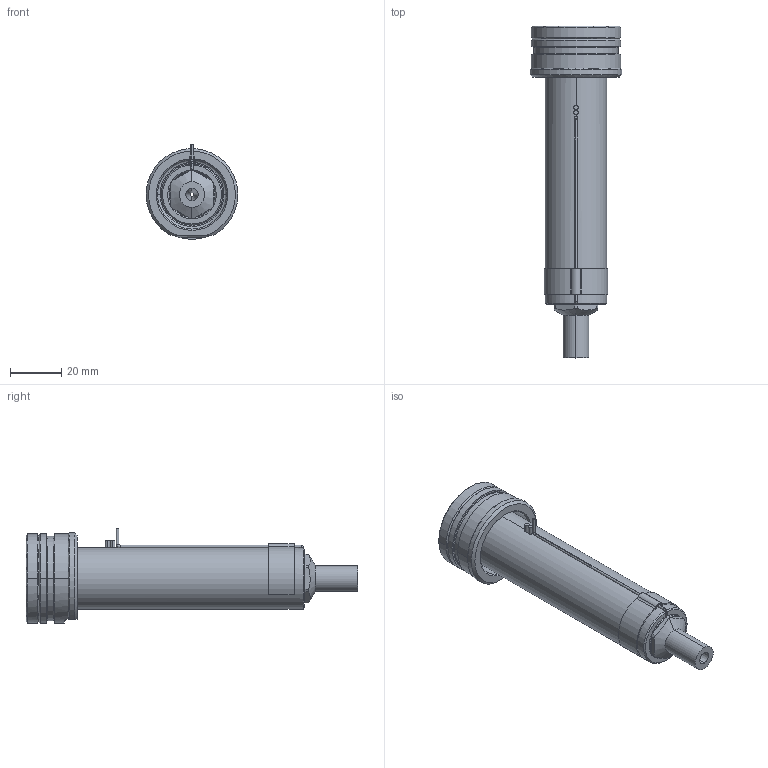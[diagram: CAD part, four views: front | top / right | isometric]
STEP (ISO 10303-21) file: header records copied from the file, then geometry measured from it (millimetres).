
FILE_DESCRIPTION((''),'2;1');
FILE_NAME('EO06_VG-ST_ESG_100_SW','2024-02-19T12:40:48',('sundharh'),(''),'CREO PARAMETRIC BY PTC INC, 2023154','CREO PARAMETRIC BY PTC INC, 2023154','');
FILE_SCHEMA(('CONFIG_CONTROL_DESIGN'));
Length unit declared in the file: millimetre
Products named in the file (1): EO06_VG-ST_ESG_100_SW
Bounding box: 35.93 x 130 x 37 mm (x, y, z)
Volume: 56670.7 mm3; surface area: 16797.6 mm2
Topology: 2 solids, 2 shells, 175 faces, 448 edges, 272 vertices
Faces by surface type: cylinder 68, plane 40, cone 34, torus 21, bspline 10, sphere 2
Entity records: 6099 total; most frequent: CARTESIAN_POINT 1806, DIRECTION 946, ORIENTED_EDGE 880, EDGE_CURVE 440, AXIS2_PLACEMENT_3D 395, VERTEX_POINT 272, CIRCLE 230, EDGE_LOOP 188
